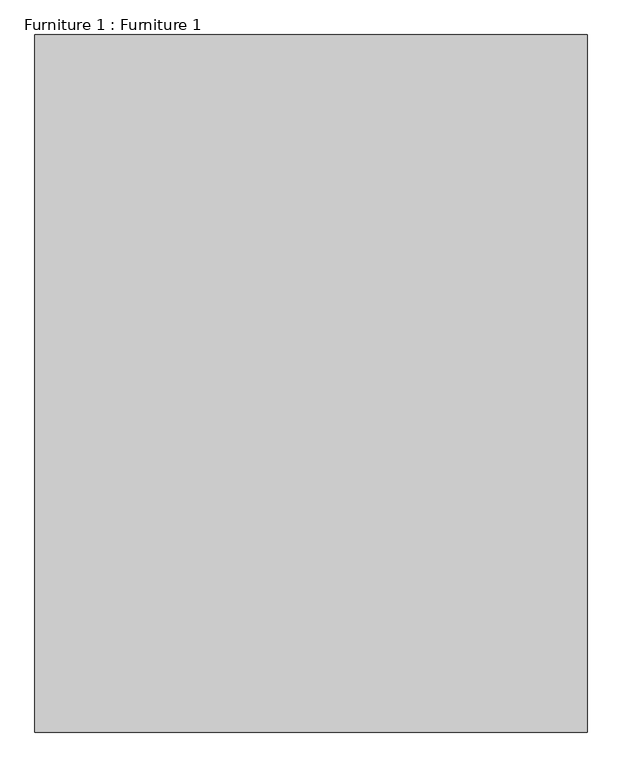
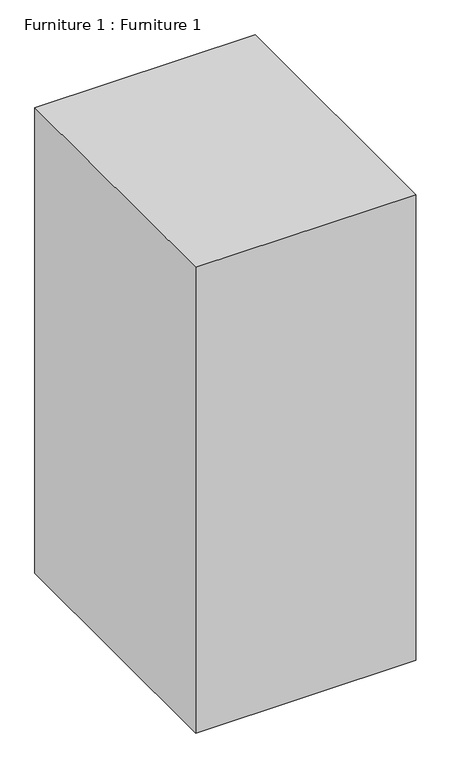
"""IFC4 building model written with IfcOpenShell, lengths in millimetres: furniture geometry, Furniture 1 : Furniture 1."""

from ifc_helpers import new_model, si_unit, origin, origin_with_axes, place, context, project, spatial, polyline, outline, extrude, source, transform, mapped, element, save


def furniture_1_furniture_1_8dd05b43(model_context):
    return source(origin(), model_context, "Body", "SweptSolid", [
        extrude(outline(polyline([(139.1365024, -543.5915678), (-920.8634976, -543.5915678), (-920.8634976, 796.4084322), (139.1365024, 796.4084322), (139.1365024, -543.5915678)])), origin_with_axes(), (0.0, 0.0, 1.0), 2370.0),
    ])


if __name__ == "__main__":
    model = new_model("IFC4")
    model_context = context("Model", 3, world=origin())
    ifc_project = project(units=[si_unit("LENGTHUNIT", "METRE", prefix="MILLI")], contexts=[model_context])
    site = spatial("IfcSite", under=ifc_project)
    building = spatial("IfcBuilding", under=site)
    placement = place(None, origin())
    furniture_1_furniture_1_shape = furniture_1_furniture_1_8dd05b43(model_context)
    element("IfcFurniture", 1, ObjectType="Furniture 1 : Furniture 1", at=placement, inside=building, context=model_context, shape_type="MappedRepresentation", body=[
        mapped(furniture_1_furniture_1_shape, transform((0.0, 0.0, 0.0), x_axis=(1.0, 0.0, 0.0), y_axis=(0.0, 1.0, 0.0), z_axis=(0.0, 0.0, 1.0))),
    ])
    save(model, "model.ifc")
